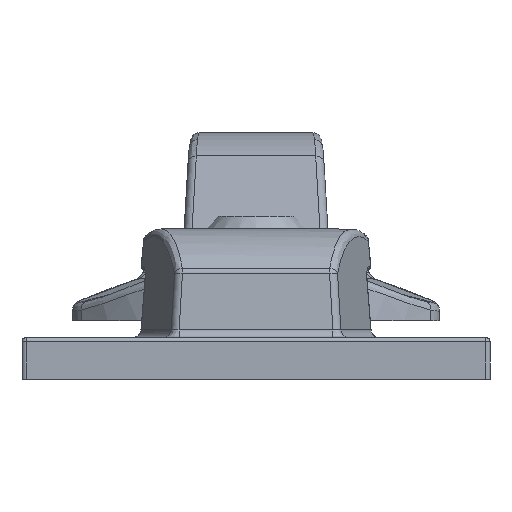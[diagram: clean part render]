
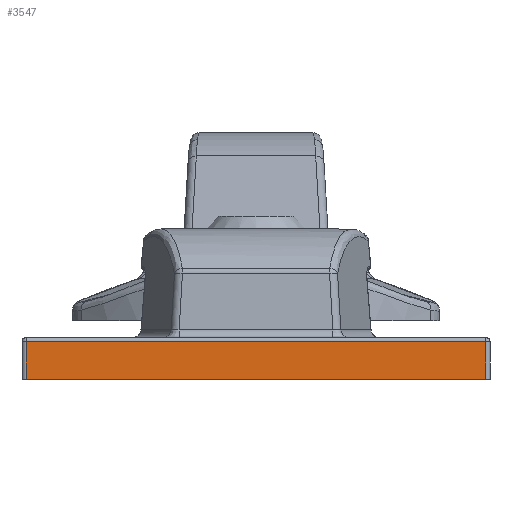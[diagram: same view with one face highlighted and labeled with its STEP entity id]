
A CAD part, front view. The second image highlights one B-rep face of the part: STEP entity #3547.
In plain terms, the highlighted planar face has unit normal (0, -1, 0) as drawn and (-1, 0, 0) by its records, which use the part's own axes.
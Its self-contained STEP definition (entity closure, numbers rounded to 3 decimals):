
#367=PLANE('',#3860);
#485=FACE_OUTER_BOUND('',#743,.T.);
#743=EDGE_LOOP('',(#2683,#2684,#2685,#2686));
#1172=LINE('',#6101,#1347);
#1189=LINE('',#6190,#1364);
#1190=LINE('',#6194,#1365);
#1191=LINE('',#6195,#1366);
#1347=VECTOR('',#4434,55.);
#1364=VECTOR('',#4493,4.5);
#1365=VECTOR('',#4498,4.5);
#1366=VECTOR('',#4499,55.);
#1580=VERTEX_POINT('',#6098);
#1581=VERTEX_POINT('',#6100);
#1594=VERTEX_POINT('',#6189);
#1595=VERTEX_POINT('',#6193);
#1961=EDGE_CURVE('',#1580,#1581,#1172,.T.);
#1990=EDGE_CURVE('',#1581,#1594,#1189,.T.);
#1992=EDGE_CURVE('',#1595,#1580,#1190,.T.);
#1993=EDGE_CURVE('',#1595,#1594,#1191,.T.);
#2683=ORIENTED_EDGE('',*,*,#1961,.F.);
#2684=ORIENTED_EDGE('',*,*,#1992,.F.);
#2685=ORIENTED_EDGE('',*,*,#1993,.T.);
#2686=ORIENTED_EDGE('',*,*,#1990,.F.);
#3547=ADVANCED_FACE('',(#485),#367,.T.);
#3860=AXIS2_PLACEMENT_3D('',#6192,#4496,#4497);
#4434=DIRECTION('',(0.,-1.,0.));
#4493=DIRECTION('',(0.,0.,-1.));
#4496=DIRECTION('center_axis',(-1.,0.,0.));
#4497=DIRECTION('ref_axis',(0.,-1.,0.));
#4498=DIRECTION('',(0.,0.,1.));
#4499=DIRECTION('',(0.,-1.,0.));
#6098=CARTESIAN_POINT('',(-12.,27.5,4.5));
#6100=CARTESIAN_POINT('',(-12.,-27.5,4.5));
#6101=CARTESIAN_POINT('',(-12.,14.,4.5));
#6189=CARTESIAN_POINT('',(-12.,-27.5,0.));
#6190=CARTESIAN_POINT('',(-12.,-27.5,0.));
#6192=CARTESIAN_POINT('Origin',(-12.,28.,0.));
#6193=CARTESIAN_POINT('',(-12.,27.5,0.));
#6194=CARTESIAN_POINT('',(-12.,27.5,0.));
#6195=CARTESIAN_POINT('',(-12.,28.,0.));
